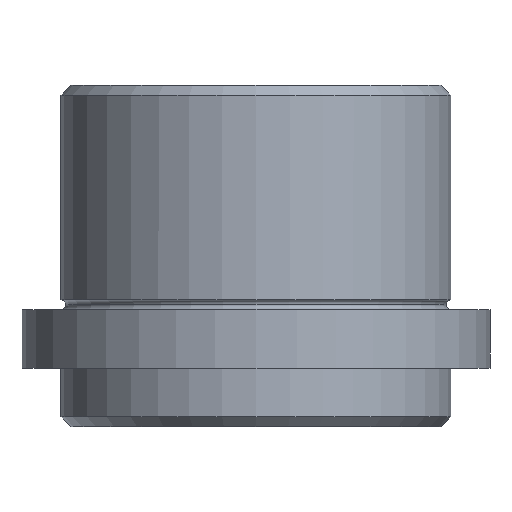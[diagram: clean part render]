
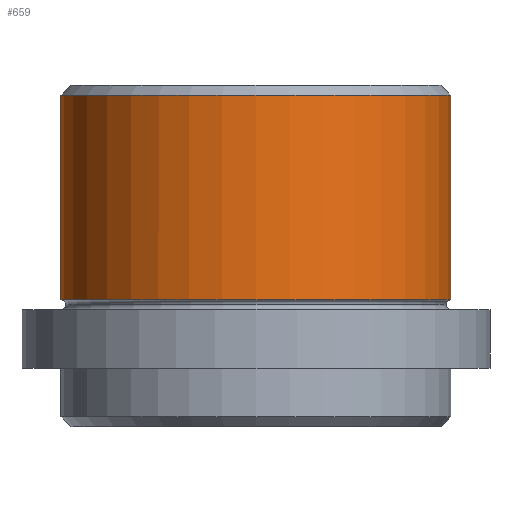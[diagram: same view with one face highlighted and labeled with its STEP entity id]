
A CAD part, front view. The second image highlights one B-rep face of the part: STEP entity #659.
In plain terms, the highlighted cylindrical face has radius 20 mm (diameter 40 mm), a partial arc.
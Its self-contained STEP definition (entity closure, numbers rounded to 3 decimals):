
#13 = AXIS2_PLACEMENT_3D ( 'NONE', #176, #153, #166 ) ;
#35 = VECTOR ( 'NONE', #765, 1000. ) ;
#60 = VECTOR ( 'NONE', #812, 1000. ) ;
#70 = LINE ( 'NONE', #787, #35 ) ;
#108 = DIRECTION ( 'NONE',  ( 1., 0., 0. ) ) ;
#113 = ORIENTED_EDGE ( 'NONE', *, *, #836, .T. ) ;
#123 = ORIENTED_EDGE ( 'NONE', *, *, #829, .F. ) ;
#147 = LINE ( 'NONE', #759, #60 ) ;
#150 = ORIENTED_EDGE ( 'NONE', *, *, #633, .T. ) ;
#153 = DIRECTION ( 'NONE',  ( 0., 0., -1. ) ) ;
#166 = DIRECTION ( 'NONE',  ( -1., 0., 0. ) ) ;
#176 = CARTESIAN_POINT ( 'NONE',  ( 0., 0., -1. ) ) ;
#194 = VERTEX_POINT ( 'NONE', #823 ) ;
#204 = CARTESIAN_POINT ( 'NONE',  ( 20., 0., -1. ) ) ;
#249 = VERTEX_POINT ( 'NONE', #615 ) ;
#263 = EDGE_LOOP ( 'NONE', ( #123, #150, #113, #445 ) ) ;
#341 = DIRECTION ( 'NONE',  ( 0., 0., 1. ) ) ;
#342 = CARTESIAN_POINT ( 'NONE',  ( 0., 0., -22. ) ) ;
#364 = CYLINDRICAL_SURFACE ( 'NONE', #450, 20. ) ;
#378 = DIRECTION ( 'NONE',  ( 0., 0., 1. ) ) ;
#445 = ORIENTED_EDGE ( 'NONE', *, *, #854, .T. ) ;
#450 = AXIS2_PLACEMENT_3D ( 'NONE', #882, #378, #108 ) ;
#473 = FACE_OUTER_BOUND ( 'NONE', #263, .T. ) ;
#484 = CARTESIAN_POINT ( 'NONE',  ( -20., 0., -22. ) ) ;
#502 = AXIS2_PLACEMENT_3D ( 'NONE', #342, #341, #563 ) ;
#563 = DIRECTION ( 'NONE',  ( 1., 0., 0. ) ) ;
#570 = VERTEX_POINT ( 'NONE', #484 ) ;
#615 = CARTESIAN_POINT ( 'NONE',  ( -20., 0., -1. ) ) ;
#621 = CIRCLE ( 'NONE', #502, 20. ) ;
#633 = EDGE_CURVE ( 'NONE', #570, #194, #621, .T. ) ;
#655 = VERTEX_POINT ( 'NONE', #204 ) ;
#659 = ADVANCED_FACE ( 'NONE', ( #473 ), #364, .T. ) ;
#722 = CIRCLE ( 'NONE', #13, 20. ) ;
#759 = CARTESIAN_POINT ( 'NONE',  ( -20., 0., 0. ) ) ;
#765 = DIRECTION ( 'NONE',  ( 0., 0., 1. ) ) ;
#787 = CARTESIAN_POINT ( 'NONE',  ( 20., 0., 0. ) ) ;
#812 = DIRECTION ( 'NONE',  ( 0., 0., 1. ) ) ;
#823 = CARTESIAN_POINT ( 'NONE',  ( 20., 0., -22. ) ) ;
#829 = EDGE_CURVE ( 'NONE', #570, #249, #147, .T. ) ;
#836 = EDGE_CURVE ( 'NONE', #194, #655, #70, .T. ) ;
#854 = EDGE_CURVE ( 'NONE', #655, #249, #722, .T. ) ;
#882 = CARTESIAN_POINT ( 'NONE',  ( 0., 0., 0. ) ) ;
